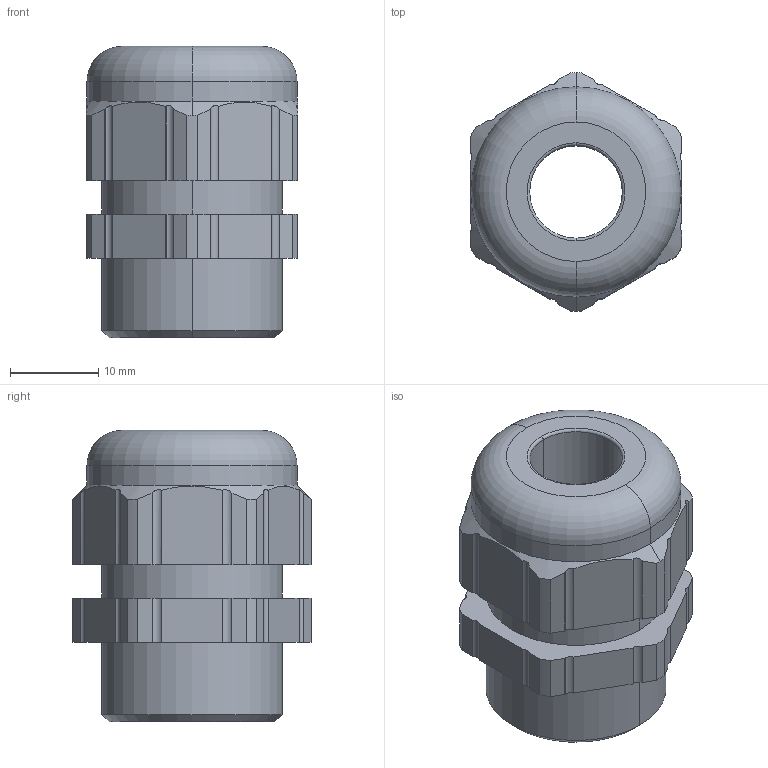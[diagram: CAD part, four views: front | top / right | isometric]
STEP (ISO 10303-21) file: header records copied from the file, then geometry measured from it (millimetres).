
FILE_DESCRIPTION (( 'STEP AP203' ), '1' );
FILE_NAME ('18130710 T.STEP', '2006-12-08T10:04:32', ( ' ' ), ( '' ), 'SwSTEP 2.0', 'SolidWorks 2005278', '' );
FILE_SCHEMA (( 'CONFIG_CONTROL_DESIGN' ));
Length unit declared in the file: millimetre
Products named in the file (1): 18130710 T
Bounding box: 24 x 27 x 33 mm (x, y, z)
Volume: 10738.6 mm3; surface area: 4489.3 mm2
Topology: 1 solids, 1 shells, 140 faces, 387 edges, 255 vertices
Faces by surface type: plane 78, cylinder 54, cone 4, torus 4
Entity records: 4681 total; most frequent: CARTESIAN_POINT 989, ORIENTED_EDGE 774, DIRECTION 738, EDGE_CURVE 387, VERTEX_POINT 255, VECTOR 250, LINE 250, AXIS2_PLACEMENT_3D 244
